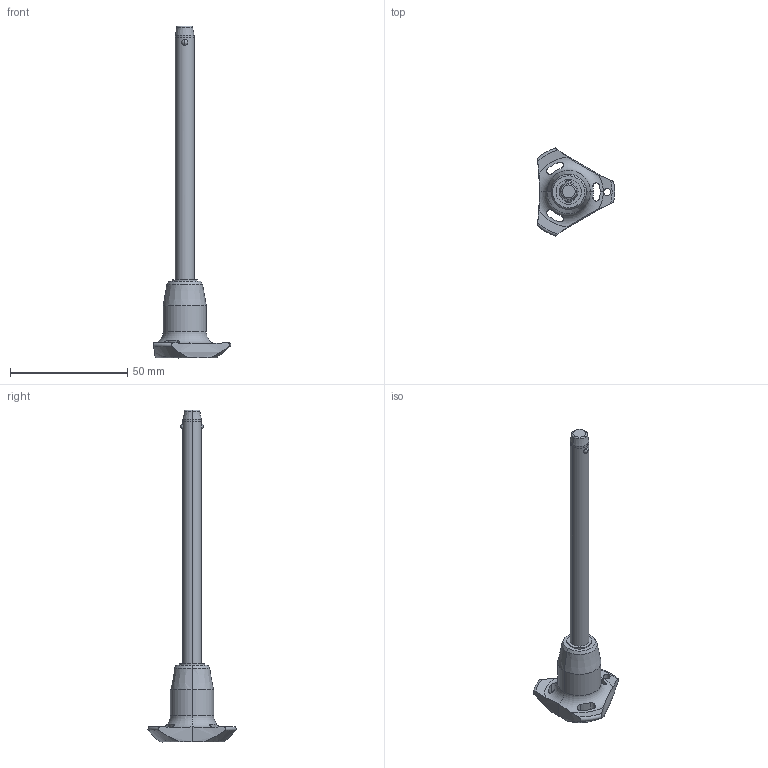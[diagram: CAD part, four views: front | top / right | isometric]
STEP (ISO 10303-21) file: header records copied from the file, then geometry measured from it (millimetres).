
FILE_DESCRIPTION (( 'STEP AP203' ), '1' );
FILE_NAME ('QR1736.M08-100-T.step', '2025-11-13T11:49:41', ( '' ), ( '' ), 'SwSTEP 2.0', 'SolidWorks 2019', '' );
FILE_SCHEMA (( 'CONFIG_CONTROL_DESIGN' ));
Length unit declared in the file: millimetre
Products named in the file (1): QR1736.M08-100-T
Bounding box: 33 x 37.51 x 141.5 mm (x, y, z)
Volume: 15077.1 mm3; surface area: 6472.6 mm2
Topology: 1 solids, 1 shells, 68 faces, 180 edges, 113 vertices
Faces by surface type: cylinder 32, cone 14, torus 11, sphere 6, plane 5
Entity records: 2815 total; most frequent: CARTESIAN_POINT 1075, ORIENTED_EDGE 360, DIRECTION 347, EDGE_CURVE 180, AXIS2_PLACEMENT_3D 154, VERTEX_POINT 113, CIRCLE 85, EDGE_LOOP 75
